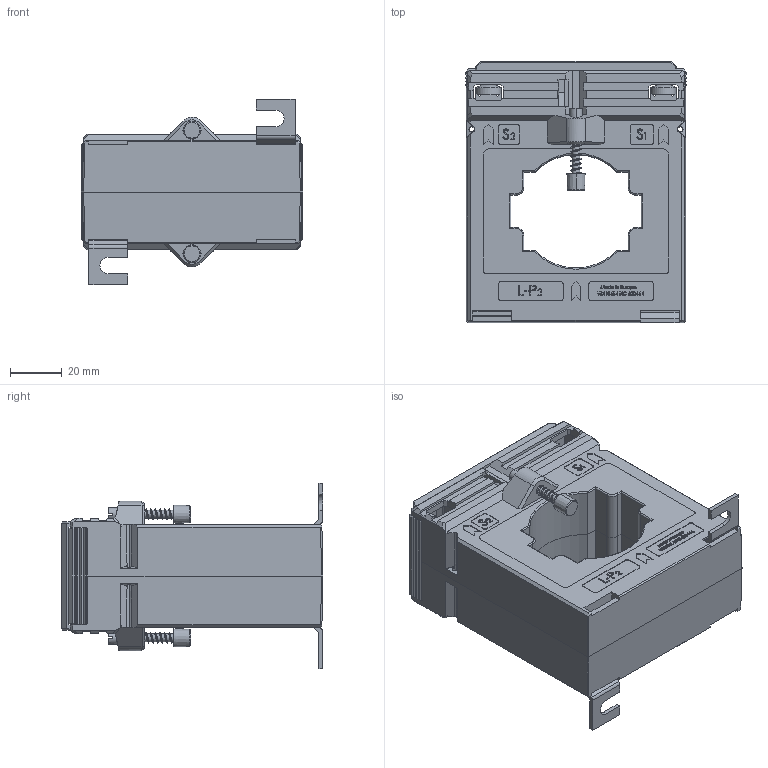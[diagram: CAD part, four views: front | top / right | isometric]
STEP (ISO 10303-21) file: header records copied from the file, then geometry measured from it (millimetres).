
FILE_DESCRIPTION (( 'STEP AP214' ), '1' );
FILE_NAME ('EASK51_4_kpl.STEP', '2011-12-02T08:15:20', ( ' ' ), ( '' ), 'SwSTEP 2.0', 'SolidWorks 2010', '' );
FILE_SCHEMA (( 'AUTOMOTIVE_DESIGN' ));
Length unit declared in the file: millimetre
Products named in the file (10): EASK51_4_kpl; ASK51_4_11_Gehäuseoberteil; Fusswinkel_1,5; ASK51_4_11; Plastite_Schraube_30_mit-Gewinde; Verschlussklappe_38mm; MBS_WN-003_04_Klemme_WN-003_02; Isolierschutzkappe; Linsenschraube DIN 7985 4.8 VZ M 5 x 10; ASK61.4-14_Plombierplatte
Assembly tree (17 placements, depth 2):
  EASK51_4_kpl
    Verschlussklappe_38mm  x2
    ASK51_4_11_Gehäuseoberteil
    MBS_WN-003_04_Klemme_WN-003_02  x2
    Plastite_Schraube_30_mit-Gewinde  x2
    Fusswinkel_1,5  x2
    ASK51_4_11
    Linsenschraube DIN 7985 4.8 VZ M 5 x 10  x4
    ASK61.4-14_Plombierplatte
    Isolierschutzkappe  x2
Bounding box: 86 x 101.5 x 72 mm (x, y, z)
Volume: 262654.7 mm3; surface area: 71990.4 mm2
Topology: 17 solids, 17 shells, 1936 faces, 5048 edges, 3268 vertices
Faces by surface type: plane 1292, bspline 320, cylinder 210, cone 78, torus 20, sphere 16
Entity records: 71118 total; most frequent: CARTESIAN_POINT 31797, ORIENTED_EDGE 8788, DIRECTION 6607, EDGE_CURVE 4394, LINE 3305, VECTOR 3305, VERTEX_POINT 2878, EDGE_LOOP 1808
